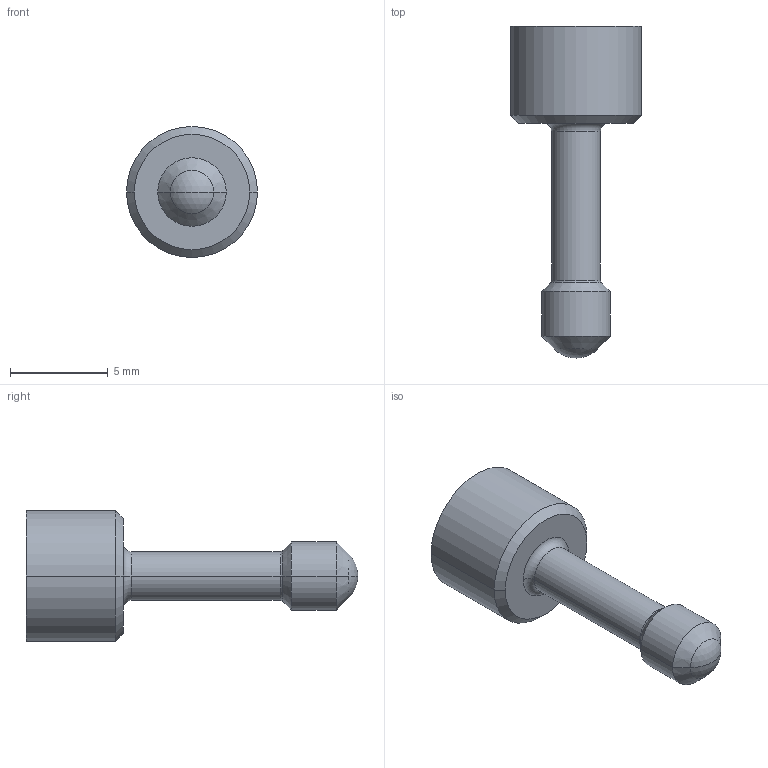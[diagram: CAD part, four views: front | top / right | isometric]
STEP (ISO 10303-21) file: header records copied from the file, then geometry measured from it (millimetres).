
FILE_DESCRIPTION (( 'STEP AP214' ), '1' );
FILE_NAME ('IA 671720.STEP', '2013-10-02T07:32:09', ( '' ), ( '' ), 'SwSTEP 2.0', 'SolidWorks 2011', '' );
FILE_SCHEMA (( 'AUTOMOTIVE_DESIGN' ));
Length unit declared in the file: millimetre
Products named in the file (2): IA 671720
Assembly tree (1 placements, depth 2):
  IA 671720
    IA 671720
Bounding box: 6.7 x 16.97 x 6.7 mm (x, y, z)
Volume: 242.1 mm3; surface area: 281.4 mm2
Topology: 1 solids, 1 shells, 53 faces, 125 edges, 79 vertices
Faces by surface type: plane 21, cylinder 20, cone 6, torus 4, sphere 2
Entity records: 1617 total; most frequent: DIRECTION 293, CARTESIAN_POINT 261, ORIENTED_EDGE 250, EDGE_CURVE 125, AXIS2_PLACEMENT_3D 111, VERTEX_POINT 79, LINE 71, VECTOR 71
